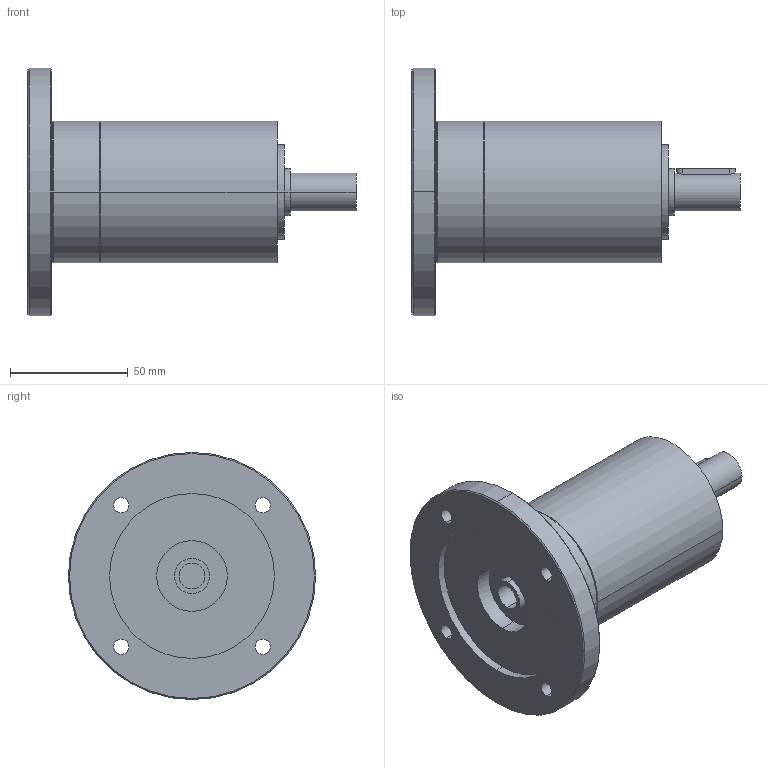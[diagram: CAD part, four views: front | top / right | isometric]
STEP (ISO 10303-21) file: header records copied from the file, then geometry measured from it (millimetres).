
FILE_DESCRIPTION(('CoCreate Modeling STEP Export'),'2;1');
FILE_NAME('GPR75_ig-9-12-16-20-24-30-36_16_B14_11_P05.stp','2014-08-25T16:01:36',(''),(''),'CoCreate Modeling STEP processor for AP214 (Solid Model)','CoCreate Modeling 16.00C 25-Feb-2009 (C) Parametric Technology GmbH','');
FILE_SCHEMA(('AUTOMOTIVE_DESIGN { 1 0 10303 214 1 1 1 1 }'));
Length unit declared in the file: millimetre
Products named in the file (2): GPR75_ig-9-12-16-20-24-30-36_16_B14_11_P05
Assembly tree (1 placements, depth 2):
  GPR75_ig-9-12-16-20-24-30-36_16_B14_11_P05
    GPR75_ig-9-12-16-20-24-30-36_16_B14_11_P05
Bounding box: 139.4 x 105 x 105 mm (x, y, z)
Volume: 346218.9 mm3; surface area: 44373.3 mm2
Topology: 1 solids, 1 shells, 71 faces, 187 edges, 131 vertices
Faces by surface type: cylinder 42, plane 19, cone 10
Entity records: 1882 total; most frequent: ORIENTED_EDGE 370, CARTESIAN_POINT 346, DIRECTION 244, EDGE_CURVE 185, VERTEX_POINT 131, EDGE_LOOP 94, AXIS2_PLACEMENT_3D 93, FACE_OUTER_BOUND 71
